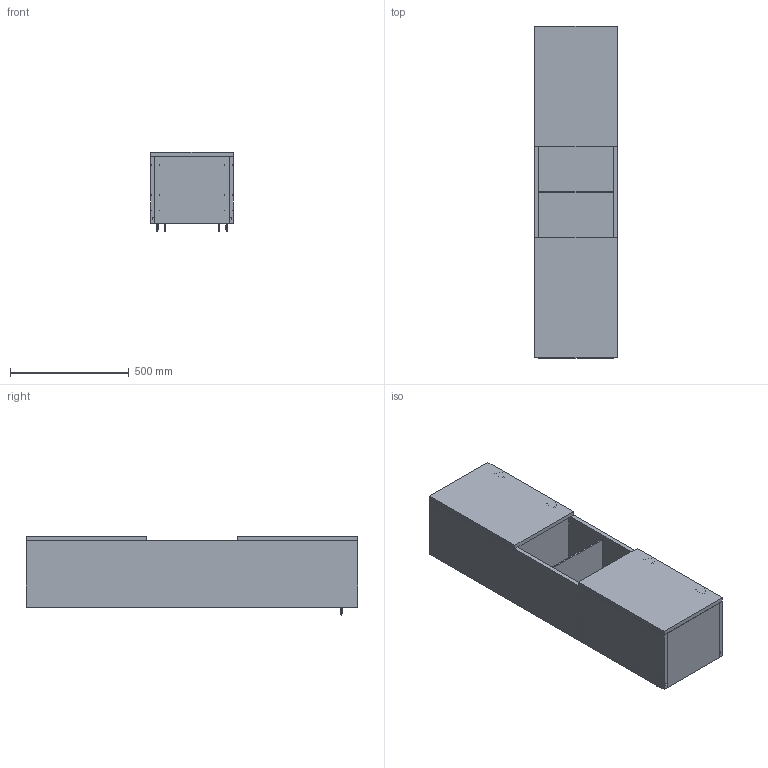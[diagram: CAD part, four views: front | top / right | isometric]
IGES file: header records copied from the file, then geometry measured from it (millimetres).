
Global section: file name: 3D Dosyası,; native system: Autodesk Inventor 2024; preprocessor: unknown; author: pc11; date: 20250708.163850; units: millimetre
Bounding box: 350 x 1400 x 336.1 mm (x, y, z)
Volume: 31397498.5 mm3; surface area: 4830673.7 mm2
Topology: 42 solids, 46 shells, 3462 faces, 9210 edges, 5859 vertices
Faces by surface type: bspline 3462
